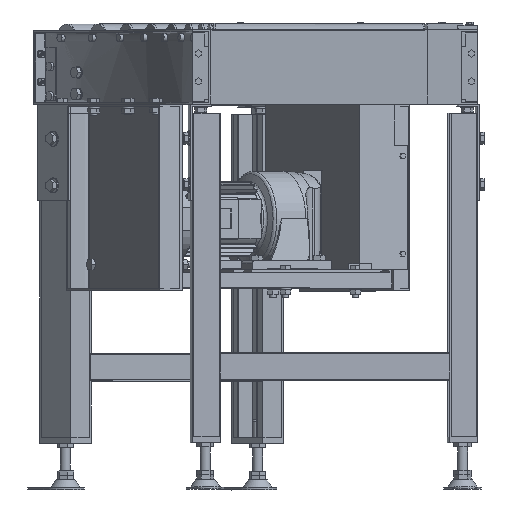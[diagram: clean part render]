
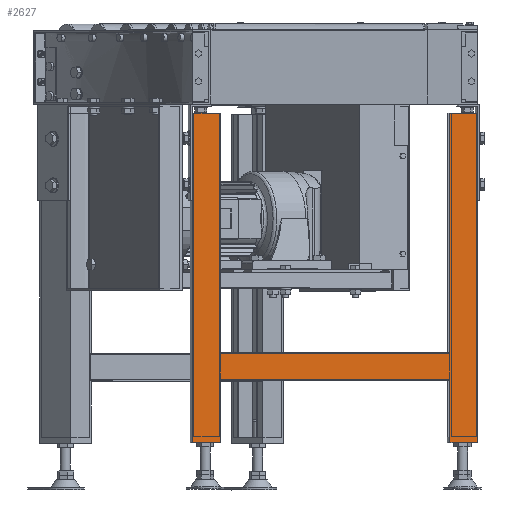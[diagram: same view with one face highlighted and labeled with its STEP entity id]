
A CAD part, top view. The second image highlights one B-rep face of the part: STEP entity #2627.
In plain terms, the highlighted planar face has unit normal (0.057, 0, 0.998).
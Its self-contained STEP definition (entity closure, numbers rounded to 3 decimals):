
#2627=ADVANCED_FACE('',(#21867),#21866,.T.);
#21866=PLANE('',#40622);
#21867=FACE_OUTER_BOUND('',#40623,.T.);
#40619=CARTESIAN_POINT('',(860.746,-685.,-11.196));
#40620=DIRECTION('',(0.057,0.,0.998));
#40621=DIRECTION('',(0.998,0.,-0.057));
#40622=AXIS2_PLACEMENT_3D('',#40619,#40620,#40621);
#40623=EDGE_LOOP('',(#54514,#54515,#54516,#54517,#54518,#54519,#54520,#54521,#54522,#54523,#54524,#54525,#54526,#54527));
#54514=ORIENTED_EDGE('',*,*,#63411,.F.);
#54515=ORIENTED_EDGE('',*,*,#63388,.T.);
#54516=ORIENTED_EDGE('',*,*,#63412,.T.);
#54517=ORIENTED_EDGE('',*,*,#63413,.F.);
#54518=ORIENTED_EDGE('',*,*,#63414,.T.);
#54519=ORIENTED_EDGE('',*,*,#63415,.T.);
#54520=ORIENTED_EDGE('',*,*,#63416,.T.);
#54521=ORIENTED_EDGE('',*,*,#63417,.F.);
#54522=ORIENTED_EDGE('',*,*,#63418,.F.);
#54523=ORIENTED_EDGE('',*,*,#63419,.F.);
#54524=ORIENTED_EDGE('',*,*,#63420,.T.);
#54525=ORIENTED_EDGE('',*,*,#63371,.T.);
#54526=ORIENTED_EDGE('',*,*,#63358,.F.);
#54527=ORIENTED_EDGE('',*,*,#63382,.F.);
#63358=EDGE_CURVE('',#97053,#97060,#97061,.T.);
#63371=EDGE_CURVE('',#97144,#97060,#97145,.T.);
#63382=EDGE_CURVE('',#97213,#97053,#97220,.T.);
#63388=EDGE_CURVE('',#97262,#97255,#97263,.T.);
#63411=EDGE_CURVE('',#97262,#97213,#97415,.T.);
#63412=EDGE_CURVE('',#97255,#97421,#97422,.T.);
#63413=EDGE_CURVE('',#97428,#97421,#97429,.T.);
#63414=EDGE_CURVE('',#97428,#97435,#97436,.T.);
#63415=EDGE_CURVE('',#97435,#97442,#97443,.T.);
#63416=EDGE_CURVE('',#97442,#97449,#97450,.T.);
#63417=EDGE_CURVE('',#97456,#97449,#97457,.T.);
#63418=EDGE_CURVE('',#97463,#97456,#97464,.T.);
#63419=EDGE_CURVE('',#97470,#97463,#97471,.T.);
#63420=EDGE_CURVE('',#97470,#97144,#97477,.T.);
#97053=VERTEX_POINT('',#134575);
#97060=VERTEX_POINT('',#134579);
#97061=LINE('',#134580,#134581);
#97144=VERTEX_POINT('',#134624);
#97145=LINE('',#134625,#134626);
#97213=VERTEX_POINT('',#134663);
#97220=LINE('',#134667,#134668);
#97255=VERTEX_POINT('',#134687);
#97262=VERTEX_POINT('',#134691);
#97263=LINE('',#134692,#134693);
#97415=LINE('',#134775,#134776);
#97421=VERTEX_POINT('',#134778);
#97422=LINE('',#134779,#134780);
#97428=VERTEX_POINT('',#134782);
#97429=LINE('',#134783,#134784);
#97435=VERTEX_POINT('',#134786);
#97436=LINE('',#134787,#134788);
#97442=VERTEX_POINT('',#134790);
#97443=LINE('',#134791,#134792);
#97449=VERTEX_POINT('',#134794);
#97450=LINE('',#134795,#134796);
#97456=VERTEX_POINT('',#134798);
#97457=LINE('',#134799,#134800);
#97463=VERTEX_POINT('',#134802);
#97464=LINE('',#134803,#134804);
#97470=VERTEX_POINT('',#134806);
#97471=LINE('',#134807,#134808);
#97477=LINE('',#134810,#134811);
#134575=CARTESIAN_POINT('',(870.73,-285.,-11.762));
#134579=CARTESIAN_POINT('',(870.73,-145.,-11.762));
#134580=CARTESIAN_POINT('',(870.73,-285.,-11.762));
#134581=VECTOR('',#134582,140.);
#134582=DIRECTION('',(0.,1.,0.));
#134624=CARTESIAN_POINT('',(915.657,-145.,-14.309));
#134625=CARTESIAN_POINT('',(915.657,-145.,-14.309));
#134626=VECTOR('',#134627,45.);
#134627=DIRECTION('',(-0.998,0.,0.057));
#134663=CARTESIAN_POINT('',(870.73,-675.,-11.762));
#134667=CARTESIAN_POINT('',(870.73,-675.,-11.762));
#134668=VECTOR('',#134669,390.);
#134669=DIRECTION('',(0.,1.,0.));
#134687=CARTESIAN_POINT('',(915.657,-575.,-14.309));
#134691=CARTESIAN_POINT('',(915.657,-675.,-14.309));
#134692=CARTESIAN_POINT('',(915.657,-675.,-14.309));
#134693=VECTOR('',#134694,100.);
#134694=DIRECTION('',(0.,1.,0.));
#134775=CARTESIAN_POINT('',(915.657,-675.,-14.309));
#134776=VECTOR('',#134777,45.);
#134777=DIRECTION('',(-0.998,0.,0.057));
#134778=CARTESIAN_POINT('',(1285.065,-575.,-35.245));
#134779=CARTESIAN_POINT('',(915.657,-575.,-14.309));
#134780=VECTOR('',#134781,370.);
#134781=DIRECTION('',(0.998,0.,-0.057));
#134782=CARTESIAN_POINT('',(1285.065,-675.,-35.245));
#134783=CARTESIAN_POINT('',(1285.065,-675.,-35.245));
#134784=VECTOR('',#134785,100.);
#134785=DIRECTION('',(0.,1.,0.));
#134786=CARTESIAN_POINT('',(1329.993,-675.,-37.792));
#134787=CARTESIAN_POINT('',(1285.065,-675.,-35.245));
#134788=VECTOR('',#134789,45.);
#134789=DIRECTION('',(0.998,0.,-0.057));
#134790=CARTESIAN_POINT('',(1329.993,-285.,-37.792));
#134791=CARTESIAN_POINT('',(1329.993,-675.,-37.792));
#134792=VECTOR('',#134793,390.);
#134793=DIRECTION('',(0.,1.,0.));
#134794=CARTESIAN_POINT('',(1329.993,-145.,-37.792));
#134795=CARTESIAN_POINT('',(1329.993,-285.,-37.792));
#134796=VECTOR('',#134797,140.);
#134797=DIRECTION('',(0.,1.,0.));
#134798=CARTESIAN_POINT('',(1285.065,-145.,-35.245));
#134799=CARTESIAN_POINT('',(1285.065,-145.,-35.245));
#134800=VECTOR('',#134801,45.);
#134801=DIRECTION('',(0.998,0.,-0.057));
#134802=CARTESIAN_POINT('',(1285.065,-530.,-35.245));
#134803=CARTESIAN_POINT('',(1285.065,-530.,-35.245));
#134804=VECTOR('',#134805,385.);
#134805=DIRECTION('',(0.,1.,0.));
#134806=CARTESIAN_POINT('',(915.657,-530.,-14.309));
#134807=CARTESIAN_POINT('',(915.657,-530.,-14.309));
#134808=VECTOR('',#134809,370.);
#134809=DIRECTION('',(0.998,0.,-0.057));
#134810=CARTESIAN_POINT('',(915.657,-530.,-14.309));
#134811=VECTOR('',#134812,385.);
#134812=DIRECTION('',(0.,1.,0.));
